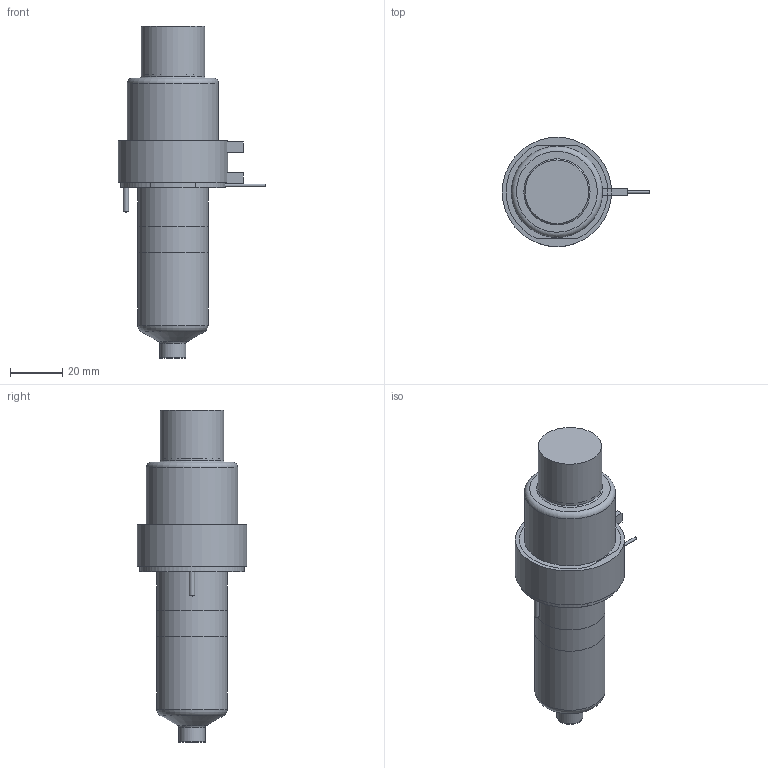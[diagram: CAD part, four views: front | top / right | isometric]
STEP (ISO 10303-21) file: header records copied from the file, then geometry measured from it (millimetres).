
FILE_DESCRIPTION(/* description */ (''),/* implementation_level */ '2;1');
FILE_NAME(/* name */ 'SXTBE-SXIBE-SXOBE13065_250C_a',/* time_stamp */ '2016-03-03T09:26:14+13:00',/* author */ (''),/* organization */ (''),/* preprocessor_version */ 'ST-DEVELOPER v9',/* originating_system */ 'UGS - NX 4.0',/* authorisation */ '');
FILE_SCHEMA (('CONFIG_CONTROL_DESIGN'));
Length unit declared in the file: millimetre
Products named in the file (1): matt0BBCfghg
Bounding box: 56.65 x 42 x 127.42 mm (x, y, z)
Volume: 158078 mm3; surface area: 28617.9 mm2
Topology: 7 solids, 7 shells, 92 faces, 180 edges, 116 vertices
Faces by surface type: plane 45, cylinder 28, torus 9, cone 9, bspline 1
Full cylindrical faces by diameter (mm): 0.9 x1, 1 x3, 2 x2, 6 x1, 9.61 x1, 10.01 x2, 12.6 x1, 22.2 x1, 24 x1, 24.4 x1, 27 x2, 31.8 x1, 35 x1, 40 x1, 42 x1
Entity records: 2250 total; most frequent: CARTESIAN_POINT 438, DIRECTION 382, ORIENTED_EDGE 268, AXIS2_PLACEMENT_3D 166, EDGE_LOOP 142, EDGE_CURVE 134, VERTEX_POINT 107, ADVANCED_FACE 92
